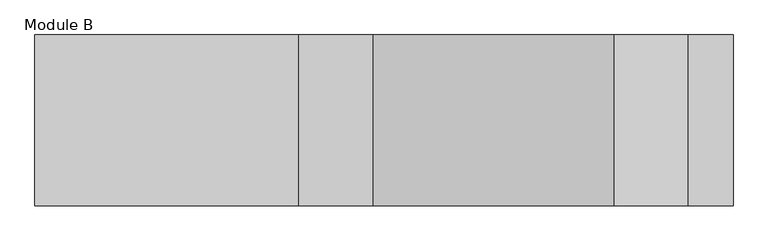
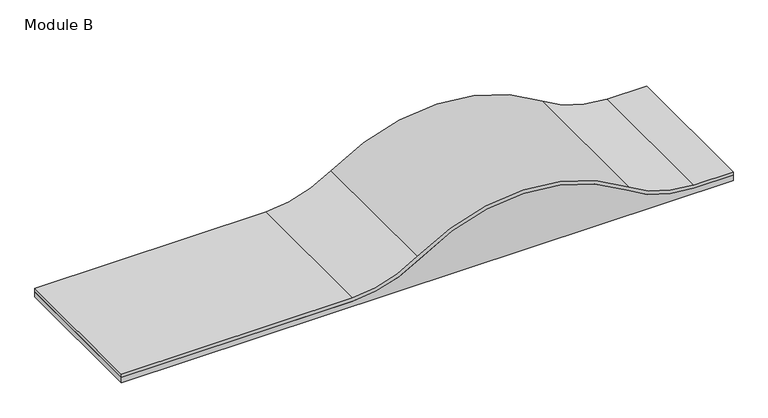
"""IFC4 building model written with IfcOpenShell, lengths in millimetres: proxy geometry, Spinneybeck_Wave : Module B."""

from ifc_helpers import new_model, si_unit, point, frame, frame_2d, origin, place, context, project, spatial, polyline, circle_curve, trimmed, segment, composite_curve, outline, extrude, source, transform, mapped, element, save


def module_b_9821c963(model_context):
    return source(origin(), model_context, "Body", "SweptSolid", [
        extrude(outline(composite_curve([segment(polyline([(16.3710938, 547.37), (16.3710938, 477.3593722)]), True, "CONTINUOUS"), segment(trimmed(circle_curve(frame_2d((219.5710938, 477.3593722)), 203.2), [point((16.3710938, 477.3593722))], [point((53.4151232, 360.3874377))], True, "CARTESIAN"), True, "CONTINUOUS"), segment(trimmed(circle_curve(frame_2d((-214.9662069, 171.45)), 328.2162301), [point((53.4151232, 360.3874377))], [point((53.4151232, -17.4874377))], False, "CARTESIAN"), True, "CONTINUOUS"), segment(trimmed(circle_curve(frame_2d((219.5710938, -134.4593722)), 203.2), [point((53.4151232, -17.4874377))], [point((16.3710938, -134.4593722))], True, "CARTESIAN"), True, "CONTINUOUS"), segment(polyline([(16.3710938, -134.4593722), (16.3710938, -547.37), (10.0210938, -547.37), (10.0210937, -134.4593722)]), True, "CONTINUOUS"), segment(trimmed(circle_curve(frame_2d((219.5710938, -134.4593722)), 209.55), [point((10.0210937, -134.4593722))], [point((48.2227491, -13.8320648))], False, "CARTESIAN"), True, "CONTINUOUS"), segment(trimmed(circle_curve(frame_2d((-214.9662069, 171.45)), 321.8662301), [point((48.2227491, -13.8320648))], [point((48.2227491, 356.7320648))], True, "CARTESIAN"), True, "CONTINUOUS"), segment(trimmed(circle_curve(frame_2d((219.5710938, 477.3593722)), 209.55), [point((48.2227491, 356.7320648))], [point((10.0210938, 477.3593722))], False, "CARTESIAN"), True, "CONTINUOUS"), segment(polyline([(10.0210938, 477.3593722), (10.0210938, 547.37), (16.3710938, 547.37)]), True, "CONTINUOUS")], self_intersect=False)), frame((0.0, -134.0996528, 0.0), z_axis=(0.0, 1.0, 0.0), x_axis=(0.0, 0.0, 1.0)), (0.0, 0.0, 1.0), 268.1993056),
        extrude(outline(composite_curve([segment(trimmed(circle_curve(frame_2d((-214.9662069, 171.45)), 321.8662301), [point((48.2227491, 356.7320648))], [point((48.2227491, -13.8320648))], False, "CARTESIAN"), True, "CONTINUOUS"), segment(trimmed(circle_curve(frame_2d((219.5710938, -134.4593722)), 209.55), [point((48.2227491, -13.8320648))], [point((10.0210938, -134.4593722))], True, "CARTESIAN"), True, "CONTINUOUS"), segment(polyline([(10.0210938, -134.4593722), (10.0210937, -547.37), (0.0, -547.37), (0.0, 547.37), (10.0210938, 547.37), (10.0210938, 477.3593722)]), True, "CONTINUOUS"), segment(trimmed(circle_curve(frame_2d((219.5710938, 477.3593722)), 209.55), [point((10.0210938, 477.3593722))], [point((48.2227491, 356.7320648))], True, "CARTESIAN"), True, "CONTINUOUS")], self_intersect=False)), frame((0.0, -134.0996528, 0.0), z_axis=(0.0, 1.0, 0.0), x_axis=(0.0, 0.0, 1.0)), (0.0, 0.0, 1.0), 268.1993056),
    ])


if __name__ == "__main__":
    model = new_model("IFC4")
    model_context = context("Model", 3, world=origin())
    ifc_project = project(units=[si_unit("LENGTHUNIT", "METRE", prefix="MILLI")], contexts=[model_context])
    site = spatial("IfcSite", under=ifc_project)
    building = spatial("IfcBuilding", under=site)
    placement = place(None, origin())
    module_b_shape = module_b_9821c963(model_context)
    element("IfcBuildingElementProxy", 1, Name="Spinneybeck_Wave : Module B", ObjectType="Spinneybeck_Wave : Module B", at=placement, inside=building, context=model_context, shape_type="MappedRepresentation", body=[
        mapped(module_b_shape, transform((0.0, 0.0, 0.0), x_axis=(1.0, 0.0, 0.0), y_axis=(0.0, 1.0, 0.0), z_axis=(0.0, 0.0, 1.0))),
    ])
    save(model, "model.ifc")
